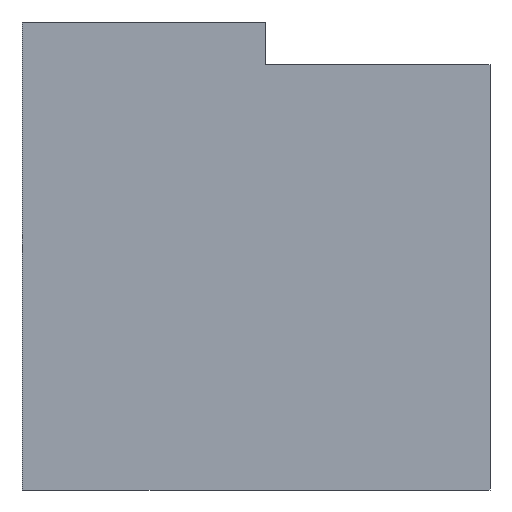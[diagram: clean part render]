
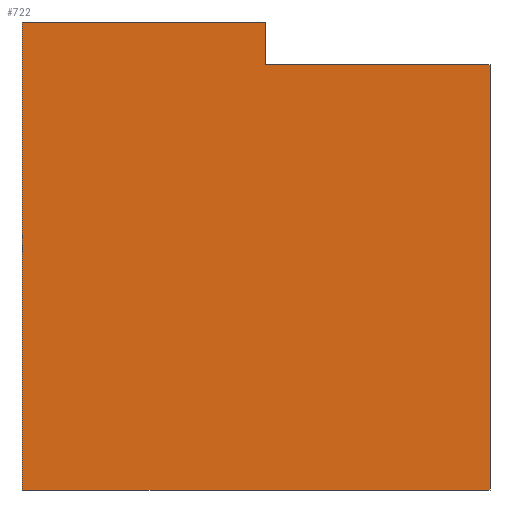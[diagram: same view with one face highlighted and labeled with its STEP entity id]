
A CAD part, left-side view. The second image highlights one B-rep face of the part: STEP entity #722.
In plain terms, the highlighted planar face has unit normal (-1, 0, 0).
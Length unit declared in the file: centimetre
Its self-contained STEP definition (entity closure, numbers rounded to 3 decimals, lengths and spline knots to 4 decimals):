
#36 = CARTESIAN_POINT ( 'NONE',  ( 0., 0., 0. ) ) ;
#42 = VERTEX_POINT ( 'NONE', #1081 ) ;
#59 = EDGE_CURVE ( 'NONE', #42, #967, #624, .T. ) ;
#62 = CARTESIAN_POINT ( 'NONE',  ( 0., 1000., 1000. ) ) ;
#67 = VECTOR ( 'NONE', #1185, 100. ) ;
#86 = ORIENTED_EDGE ( 'NONE', *, *, #655, .F. ) ;
#124 = VECTOR ( 'NONE', #733, 100. ) ;
#135 = CARTESIAN_POINT ( 'NONE',  ( 0., 480.1348, 908.3668 ) ) ;
#158 = CARTESIAN_POINT ( 'NONE',  ( 0., 1000., 0. ) ) ;
#165 = EDGE_CURVE ( 'NONE', #287, #1254, #398, .T. ) ;
#181 = FACE_OUTER_BOUND ( 'NONE', #833, .T. ) ;
#237 = ORIENTED_EDGE ( 'NONE', *, *, #750, .F. ) ;
#241 = VECTOR ( 'NONE', #617, 100. ) ;
#265 = LINE ( 'NONE', #135, #124 ) ;
#271 = EDGE_CURVE ( 'NONE', #1254, #1294, #1219, .T. ) ;
#287 = VERTEX_POINT ( 'NONE', #291 ) ;
#291 = CARTESIAN_POINT ( 'NONE',  ( 0., 1000., 1000. ) ) ;
#333 = LINE ( 'NONE', #551, #1276 ) ;
#341 = VECTOR ( 'NONE', #507, 100. ) ;
#371 = CARTESIAN_POINT ( 'NONE',  ( 0., 0., 1000. ) ) ;
#398 = LINE ( 'NONE', #1438, #341 ) ;
#400 = ORIENTED_EDGE ( 'NONE', *, *, #1298, .F. ) ;
#487 = VECTOR ( 'NONE', #631, 100. ) ;
#491 = CARTESIAN_POINT ( 'NONE',  ( 0., 480.1348, 908.3668 ) ) ;
#507 = DIRECTION ( 'NONE',  ( 0., 0., -1. ) ) ;
#551 = CARTESIAN_POINT ( 'NONE',  ( 0., 1000., 1000. ) ) ;
#617 = DIRECTION ( 'NONE',  ( 0., -1., 0. ) ) ;
#624 = LINE ( 'NONE', #491, #241 ) ;
#631 = DIRECTION ( 'NONE',  ( 0., -1., 0. ) ) ;
#650 = PLANE ( 'NONE',  #1423 ) ;
#655 = EDGE_CURVE ( 'NONE', #967, #1294, #1384, .T. ) ;
#722 = ADVANCED_FACE ( 'NONE', ( #181 ), #650, .F. ) ;
#733 = DIRECTION ( 'NONE',  ( 0., 0., -1. ) ) ;
#750 = EDGE_CURVE ( 'NONE', #287, #1061, #333, .T. ) ;
#803 = DIRECTION ( 'NONE',  ( 0., -1., 0. ) ) ;
#833 = EDGE_LOOP ( 'NONE', ( #86, #1072, #400, #237, #869, #1380 ) ) ;
#869 = ORIENTED_EDGE ( 'NONE', *, *, #165, .T. ) ;
#894 = DIRECTION ( 'NONE',  ( 0., 0., -1. ) ) ;
#967 = VERTEX_POINT ( 'NONE', #1118 ) ;
#1009 = DIRECTION ( 'NONE',  ( 1., 0., 0. ) ) ;
#1061 = VERTEX_POINT ( 'NONE', #1357 ) ;
#1072 = ORIENTED_EDGE ( 'NONE', *, *, #59, .F. ) ;
#1081 = CARTESIAN_POINT ( 'NONE',  ( 0., 480.1348, 908.3668 ) ) ;
#1118 = CARTESIAN_POINT ( 'NONE',  ( 0., 0., 908.3668 ) ) ;
#1185 = DIRECTION ( 'NONE',  ( 0., 0., -1. ) ) ;
#1219 = LINE ( 'NONE', #158, #487 ) ;
#1254 = VERTEX_POINT ( 'NONE', #1428 ) ;
#1276 = VECTOR ( 'NONE', #803, 100. ) ;
#1294 = VERTEX_POINT ( 'NONE', #36 ) ;
#1298 = EDGE_CURVE ( 'NONE', #1061, #42, #265, .T. ) ;
#1357 = CARTESIAN_POINT ( 'NONE',  ( 0., 480.1348, 1000. ) ) ;
#1380 = ORIENTED_EDGE ( 'NONE', *, *, #271, .T. ) ;
#1384 = LINE ( 'NONE', #371, #67 ) ;
#1423 = AXIS2_PLACEMENT_3D ( 'NONE', #62, #1009, #894 ) ;
#1428 = CARTESIAN_POINT ( 'NONE',  ( 0., 1000., 0. ) ) ;
#1438 = CARTESIAN_POINT ( 'NONE',  ( 0., 1000., 1000. ) ) ;
